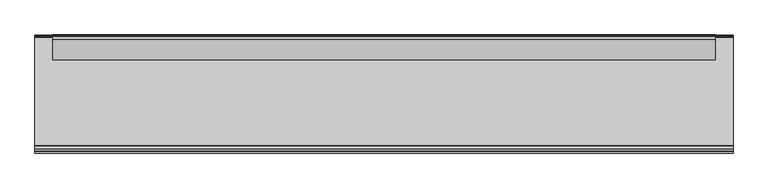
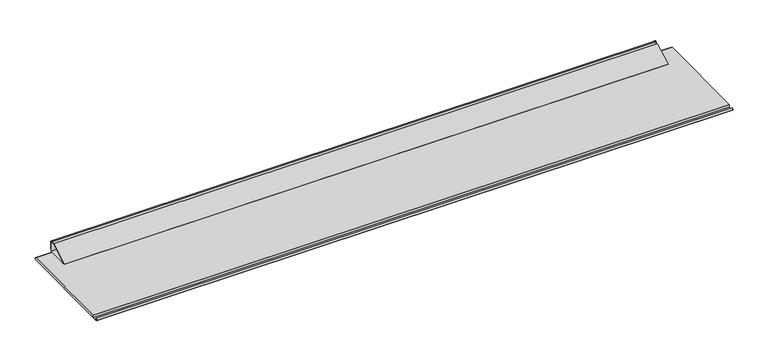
"""IFC4 building model written with IfcOpenShell, lengths in millimetres: proxy geometry, 営_付庇_窓 : 付庇."""

from ifc_helpers import new_model, si_unit, point, frame, frame_2d, origin, place, context, project, spatial, polyline, circle_curve, trimmed, segment, composite_curve, outline, extrude, source, transform, mapped, element, save


def generic_models_889831fe(model_context):
    return source(origin(), model_context, "Body", "SweptSolid", [
        extrude(outline(composite_curve([segment(polyline([(-37.6140814, 2819.9351524), (-11.3461322, 2819.9351524), (-11.3461322, 2828.9351524), (-10.3461322, 2828.9351524), (-10.3461322, 2818.9351524), (-1.8461322, 2818.9351524)]), True, "CONTINUOUS"), segment(trimmed(circle_curve(frame_2d((-1.8461322, 2817.4351524)), 1.5), [point((-1.8461322, 2818.9351524))], [point((-0.3461322, 2817.4351524))], False, "CARTESIAN"), True, "CONTINUOUS"), segment(polyline([(-0.3461322, 2817.4351524), (-0.3461322, 2752.0085908), (-1.8327263, 2752.0085908), (-1.8327263, 2735.1294809)]), True, "CONTINUOUS"), segment(trimmed(circle_curve(frame_2d((-5.028506, 2735.1294809)), 3.1957797), [point((-1.8327263, 2735.1294809))], [point((-5.028506, 2731.9337012))], False, "CARTESIAN"), True, "CONTINUOUS"), segment(polyline([(-5.028506, 2731.9337012), (-175.0057255, 2730.2313285)]), True, "CONTINUOUS"), segment(trimmed(circle_curve(frame_2d((-171.8053303, 2730.2659194)), 3.2005822), [point((-175.0057255, 2730.2313285))], [point((-171.8055496, 2733.4665015))], False, "CARTESIAN"), True, "CONTINUOUS"), segment(polyline([(-171.8055496, 2733.4665015), (-5.0461322, 2735.1351524), (-5.0461322, 2817.4351524), (-25.3461322, 2817.4351524), (-25.3461322, 2818.9351524), (-37.3461322, 2818.9351524), (-190.9231912, 2730.267396), (-191.4231912, 2731.1334214), (-37.6140814, 2819.9351524)]), True, "CONTINUOUS")], self_intersect=False)), frame((-2537.5, 0.0, 0.0), z_axis=(1.0, 0.0, 0.0), x_axis=(0.0, 1.0, 0.0)), (0.0, 0.0, 1.0), 5075.0),
        extrude(outline(polyline([(-2.5882551, 2708.904574), (-840.0443021, 2700.5299735), (-840.1352979, 2709.6295042), (-847.1349905, 2709.5595114), (-847.1089918, 2706.959652), (-845.1090918, 2706.979651), (-845.0940922, 2705.479699), (-847.0939926, 2705.4596999), (-847.0439951, 2700.459977), (-893.0414445, 2700.0), (-893.1674389, 2712.5993704), (-905.0, 2712.4810448), (-905.0, 2714.1463745), (-890.2697794, 2722.848415), (-890.071593, 2703.0298485), (-870.1165891, 2703.2293992), (-850.0738436, 2703.4298285), (-850.2698338, 2723.0286706), (-17.8134939, 2731.3533096), (-17.7134989, 2721.3539004), (-10.9138389, 2721.4218976), (-2.7142489, 2721.5038939), (-2.5882551, 2708.904574)])), frame((-2672.5, 0.0, 0.0), z_axis=(1.0, 0.0, 0.0), x_axis=(0.0, 1.0, 0.0)), (0.0, 0.0, 1.0), 5345.0),
    ])


if __name__ == "__main__":
    model = new_model("IFC4")
    model_context = context("Model", 3, world=origin())
    ifc_project = project(units=[si_unit("LENGTHUNIT", "METRE", prefix="MILLI")], contexts=[model_context])
    site = spatial("IfcSite", under=ifc_project)
    building = spatial("IfcBuilding", under=site)
    placement = place(None, origin())
    generic_models_shape = generic_models_889831fe(model_context)
    element("IfcBuildingElementProxy", 1, Name="営_付庇_窓 : 付庇", ObjectType="営_付庇_窓 : 付庇", at=placement, inside=building, context=model_context, shape_type="MappedRepresentation", body=[
        mapped(generic_models_shape, transform((0.0, 0.0, 0.0), x_axis=(1.0, 0.0, 0.0), y_axis=(0.0, 1.0, 0.0), z_axis=(0.0, 0.0, 1.0))),
    ])
    save(model, "model.ifc")
